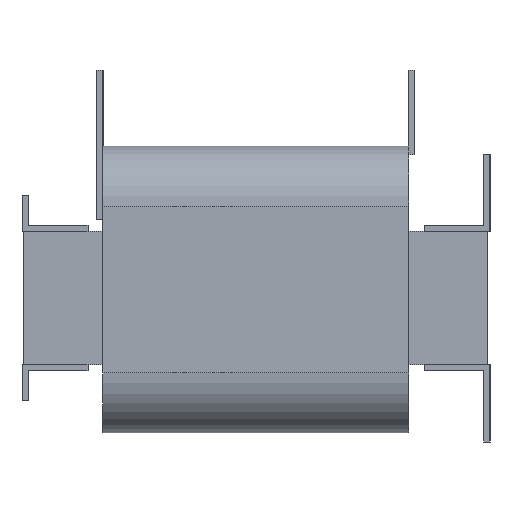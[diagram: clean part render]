
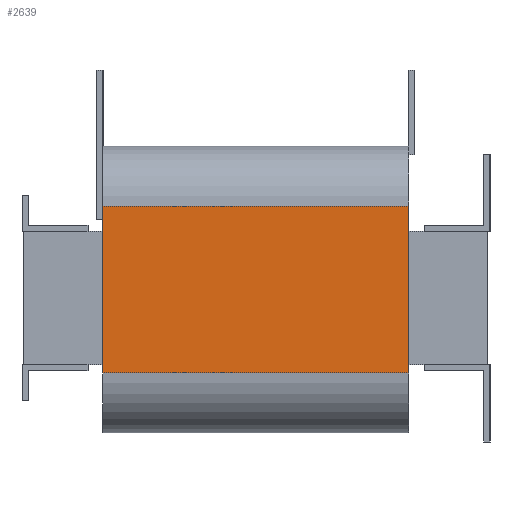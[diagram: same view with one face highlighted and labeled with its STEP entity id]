
A CAD part, left-side view. The second image highlights one B-rep face of the part: STEP entity #2639.
In plain terms, the highlighted planar face has unit normal (-1, 0, 0).
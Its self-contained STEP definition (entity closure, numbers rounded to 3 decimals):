
#114=PLANE('',#2843);
#243=FACE_OUTER_BOUND('',#393,.T.);
#393=EDGE_LOOP('',(#2263,#2264,#2265,#2266));
#670=LINE('',#4142,#996);
#689=LINE('',#4192,#1015);
#690=LINE('',#4195,#1016);
#691=LINE('',#4196,#1017);
#996=VECTOR('',#3383,10.);
#1015=VECTOR('',#3428,10.);
#1016=VECTOR('',#3431,10.);
#1017=VECTOR('',#3432,10.);
#1325=VERTEX_POINT('',#4139);
#1326=VERTEX_POINT('',#4141);
#1344=VERTEX_POINT('',#4190);
#1345=VERTEX_POINT('',#4194);
#1652=EDGE_CURVE('',#1325,#1326,#670,.T.);
#1678=EDGE_CURVE('',#1344,#1325,#689,.T.);
#1679=EDGE_CURVE('',#1344,#1345,#690,.T.);
#1680=EDGE_CURVE('',#1326,#1345,#691,.T.);
#2263=ORIENTED_EDGE('',*,*,#1678,.F.);
#2264=ORIENTED_EDGE('',*,*,#1679,.T.);
#2265=ORIENTED_EDGE('',*,*,#1680,.F.);
#2266=ORIENTED_EDGE('',*,*,#1652,.F.);
#2639=ADVANCED_FACE('',(#243),#114,.T.);
#2843=AXIS2_PLACEMENT_3D('',#4193,#3429,#3430);
#3383=DIRECTION('',(0.,0.,1.));
#3428=DIRECTION('',(0.,1.,0.));
#3429=DIRECTION('center_axis',(-1.,0.,0.));
#3430=DIRECTION('ref_axis',(0.,0.,1.));
#3431=DIRECTION('',(0.,0.,1.));
#3432=DIRECTION('',(0.,-1.,0.));
#4139=CARTESIAN_POINT('',(-287.,322.5,-62.5));
#4141=CARTESIAN_POINT('',(-287.,322.5,76.5));
#4142=CARTESIAN_POINT('',(-287.,322.5,-112.5));
#4190=CARTESIAN_POINT('',(-287.,67.5,-62.5));
#4192=CARTESIAN_POINT('',(-287.,67.5,-62.5));
#4193=CARTESIAN_POINT('Origin',(-287.,67.5,-112.5));
#4194=CARTESIAN_POINT('',(-287.,67.5,76.5));
#4195=CARTESIAN_POINT('',(-287.,67.5,-112.5));
#4196=CARTESIAN_POINT('',(-287.,67.5,76.5));
